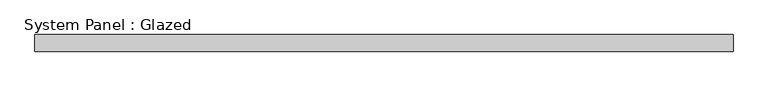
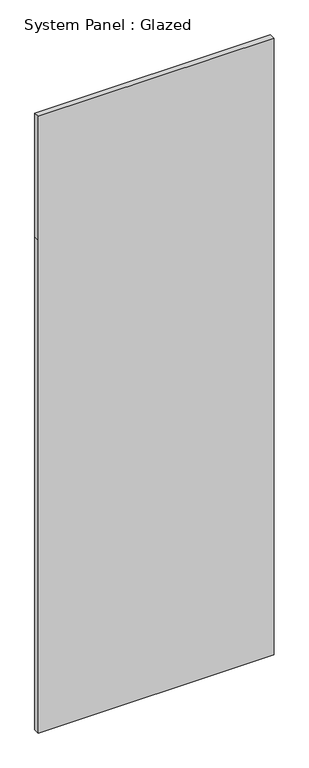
"""IFC4 building model written with IfcOpenShell, lengths in millimetres: plate geometry, System Panel : Glazed."""

from ifc_helpers import new_model, si_unit, frame, origin, place, context, project, spatial, polyline, outline, extrude, source, transform, mapped, element, save


def system_panel_glazed_e25e52c7(model_context):
    return source(origin(), model_context, "Body", "SweptSolid", [
        extrude(outline(polyline([(0.0, -513.7428573), (0.0, 513.7428573), (2270.0, 513.7428573), (2840.0, 513.7428573), (2840.0, -513.7428573), (2270.0, -513.7428573), (0.0, -513.7428573)])), frame((0.0, 0.0, 0.0), z_axis=(0.0, 1.0, 0.0), x_axis=(0.0, 0.0, 1.0)), (0.0, 0.0, 1.0), 25.0),
    ])


if __name__ == "__main__":
    model = new_model("IFC4")
    model_context = context("Model", 3, world=origin())
    ifc_project = project(units=[si_unit("LENGTHUNIT", "METRE", prefix="MILLI")], contexts=[model_context])
    site = spatial("IfcSite", under=ifc_project)
    building = spatial("IfcBuilding", under=site)
    placement = place(None, origin())
    system_panel_glazed_shape = system_panel_glazed_e25e52c7(model_context)
    element("IfcPlate", 1, ObjectType="System Panel : Glazed", at=placement, inside=building, context=model_context, shape_type="MappedRepresentation", body=[
        mapped(system_panel_glazed_shape, transform((0.0, 0.0, 0.0), x_axis=(1.0, 0.0, 0.0), y_axis=(0.0, 1.0, 0.0), z_axis=(0.0, 0.0, 1.0))),
    ])
    save(model, "model.ifc")
